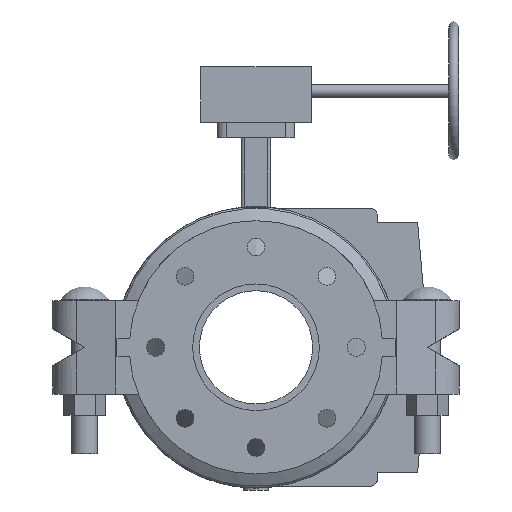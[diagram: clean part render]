
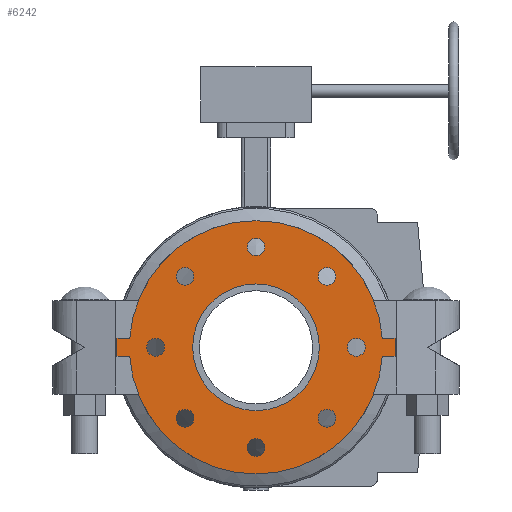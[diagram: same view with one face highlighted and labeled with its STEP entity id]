
A CAD part, front view. The second image highlights one B-rep face of the part: STEP entity #6242.
In plain terms, the highlighted planar face has unit normal (0, -1, 0) as drawn and (0, 0, -1) by its records, which use the part's own axes.
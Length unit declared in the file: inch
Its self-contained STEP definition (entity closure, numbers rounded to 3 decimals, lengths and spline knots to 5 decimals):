
#176=FACE_BOUND('',#807,.T.);
#177=FACE_BOUND('',#808,.T.);
#178=FACE_BOUND('',#809,.T.);
#179=FACE_BOUND('',#810,.T.);
#180=FACE_BOUND('',#811,.T.);
#181=FACE_BOUND('',#812,.T.);
#182=FACE_BOUND('',#813,.T.);
#183=FACE_BOUND('',#814,.T.);
#184=FACE_BOUND('',#815,.T.);
#251=PLANE('',#6780);
#462=FACE_OUTER_BOUND('',#806,.T.);
#806=EDGE_LOOP('',(#4066,#4067,#4068,#4069,#4070,#4071,#4072,#4073));
#807=EDGE_LOOP('',(#4074));
#808=EDGE_LOOP('',(#4075));
#809=EDGE_LOOP('',(#4076));
#810=EDGE_LOOP('',(#4077));
#811=EDGE_LOOP('',(#4078));
#812=EDGE_LOOP('',(#4079));
#813=EDGE_LOOP('',(#4080));
#814=EDGE_LOOP('',(#4081));
#815=EDGE_LOOP('',(#4082));
#1204=LINE('',#9463,#1672);
#1207=LINE('',#9469,#1675);
#1210=LINE('',#9474,#1678);
#1212=LINE('',#9479,#1680);
#1216=LINE('',#9486,#1684);
#1218=LINE('',#9489,#1686);
#1672=VECTOR('',#7550,0.3937);
#1675=VECTOR('',#7555,0.3937);
#1678=VECTOR('',#7560,0.3937);
#1680=VECTOR('',#7564,0.3937);
#1684=VECTOR('',#7570,0.3937);
#1686=VECTOR('',#7574,0.3937);
#2128=CIRCLE('',#6742,0.315);
#2130=CIRCLE('',#6745,0.315);
#2132=CIRCLE('',#6748,0.315);
#2134=CIRCLE('',#6751,0.315);
#2136=CIRCLE('',#6754,0.315);
#2138=CIRCLE('',#6757,0.315);
#2140=CIRCLE('',#6760,0.315);
#2142=CIRCLE('',#6763,0.315);
#2143=CIRCLE('',#6765,2.25);
#2145=CIRCLE('',#6768,4.5);
#2148=CIRCLE('',#6772,4.5);
#2482=VERTEX_POINT('',#9392);
#2484=VERTEX_POINT('',#9398);
#2486=VERTEX_POINT('',#9404);
#2488=VERTEX_POINT('',#9410);
#2490=VERTEX_POINT('',#9416);
#2492=VERTEX_POINT('',#9422);
#2494=VERTEX_POINT('',#9428);
#2496=VERTEX_POINT('',#9434);
#2497=VERTEX_POINT('',#9438);
#2499=VERTEX_POINT('',#9444);
#2501=VERTEX_POINT('',#9447);
#2503=VERTEX_POINT('',#9453);
#2506=VERTEX_POINT('',#9458);
#2507=VERTEX_POINT('',#9462);
#2509=VERTEX_POINT('',#9468);
#2511=VERTEX_POINT('',#9477);
#2512=VERTEX_POINT('',#9478);
#3089=EDGE_CURVE('',#2482,#2482,#2128,.T.);
#3092=EDGE_CURVE('',#2484,#2484,#2130,.T.);
#3095=EDGE_CURVE('',#2486,#2486,#2132,.T.);
#3098=EDGE_CURVE('',#2488,#2488,#2134,.T.);
#3101=EDGE_CURVE('',#2490,#2490,#2136,.T.);
#3104=EDGE_CURVE('',#2492,#2492,#2138,.T.);
#3107=EDGE_CURVE('',#2494,#2494,#2140,.T.);
#3110=EDGE_CURVE('',#2496,#2496,#2142,.T.);
#3111=EDGE_CURVE('',#2497,#2497,#2143,.T.);
#3115=EDGE_CURVE('',#2499,#2501,#2145,.T.);
#3121=EDGE_CURVE('',#2506,#2503,#2148,.T.);
#3122=EDGE_CURVE('',#2501,#2507,#1204,.T.);
#3125=EDGE_CURVE('',#2509,#2506,#1207,.T.);
#3128=EDGE_CURVE('',#2507,#2509,#1210,.T.);
#3130=EDGE_CURVE('',#2511,#2512,#1212,.T.);
#3134=EDGE_CURVE('',#2503,#2511,#1216,.T.);
#3136=EDGE_CURVE('',#2512,#2499,#1218,.T.);
#4066=ORIENTED_EDGE('',*,*,#3136,.F.);
#4067=ORIENTED_EDGE('',*,*,#3130,.F.);
#4068=ORIENTED_EDGE('',*,*,#3134,.F.);
#4069=ORIENTED_EDGE('',*,*,#3121,.F.);
#4070=ORIENTED_EDGE('',*,*,#3125,.F.);
#4071=ORIENTED_EDGE('',*,*,#3128,.F.);
#4072=ORIENTED_EDGE('',*,*,#3122,.F.);
#4073=ORIENTED_EDGE('',*,*,#3115,.F.);
#4074=ORIENTED_EDGE('',*,*,#3089,.T.);
#4075=ORIENTED_EDGE('',*,*,#3092,.T.);
#4076=ORIENTED_EDGE('',*,*,#3095,.T.);
#4077=ORIENTED_EDGE('',*,*,#3098,.T.);
#4078=ORIENTED_EDGE('',*,*,#3101,.T.);
#4079=ORIENTED_EDGE('',*,*,#3104,.T.);
#4080=ORIENTED_EDGE('',*,*,#3107,.T.);
#4081=ORIENTED_EDGE('',*,*,#3110,.T.);
#4082=ORIENTED_EDGE('',*,*,#3111,.T.);
#6242=ADVANCED_FACE('',(#462,#176,#177,#178,#179,#180,#181,#182,#183,#184),
#251,.F.);
#6742=AXIS2_PLACEMENT_3D('',#9394,#7474,#7475);
#6745=AXIS2_PLACEMENT_3D('',#9400,#7481,#7482);
#6748=AXIS2_PLACEMENT_3D('',#9406,#7488,#7489);
#6751=AXIS2_PLACEMENT_3D('',#9412,#7495,#7496);
#6754=AXIS2_PLACEMENT_3D('',#9418,#7502,#7503);
#6757=AXIS2_PLACEMENT_3D('',#9424,#7509,#7510);
#6760=AXIS2_PLACEMENT_3D('',#9430,#7516,#7517);
#6763=AXIS2_PLACEMENT_3D('',#9436,#7523,#7524);
#6765=AXIS2_PLACEMENT_3D('',#9439,#7527,#7528);
#6768=AXIS2_PLACEMENT_3D('',#9448,#7535,#7536);
#6772=AXIS2_PLACEMENT_3D('',#9460,#7546,#7547);
#6780=AXIS2_PLACEMENT_3D('',#9492,#7578,#7579);
#7474=DIRECTION('center_axis',(0.,0.,1.));
#7475=DIRECTION('ref_axis',(-0.707,-0.707,0.));
#7481=DIRECTION('center_axis',(0.,0.,1.));
#7482=DIRECTION('ref_axis',(-1.,0.,0.));
#7488=DIRECTION('center_axis',(0.,0.,1.));
#7489=DIRECTION('ref_axis',(-0.707,0.707,0.));
#7495=DIRECTION('center_axis',(0.,0.,1.));
#7496=DIRECTION('ref_axis',(0.,1.,0.));
#7502=DIRECTION('center_axis',(0.,0.,1.));
#7503=DIRECTION('ref_axis',(0.707,0.707,0.));
#7509=DIRECTION('center_axis',(0.,0.,1.));
#7510=DIRECTION('ref_axis',(1.,0.,0.));
#7516=DIRECTION('center_axis',(0.,0.,1.));
#7517=DIRECTION('ref_axis',(0.707,-0.707,0.));
#7523=DIRECTION('center_axis',(0.,0.,1.));
#7524=DIRECTION('ref_axis',(0.,-1.,0.));
#7527=DIRECTION('center_axis',(0.,0.,1.));
#7528=DIRECTION('ref_axis',(0.,-1.,0.));
#7535=DIRECTION('center_axis',(0.,0.,1.));
#7536=DIRECTION('ref_axis',(0.,1.,0.));
#7546=DIRECTION('center_axis',(0.,0.,1.));
#7547=DIRECTION('ref_axis',(0.,1.,0.));
#7550=DIRECTION('',(0.,-1.,0.));
#7555=DIRECTION('',(0.,1.,0.));
#7560=DIRECTION('',(1.,0.,0.));
#7564=DIRECTION('',(-1.,0.,0.));
#7570=DIRECTION('',(0.,1.,0.));
#7574=DIRECTION('',(0.,-1.,0.));
#7578=DIRECTION('center_axis',(0.,0.,1.));
#7579=DIRECTION('ref_axis',(0.,1.,0.));
#9392=CARTESIAN_POINT('',(-2.2981,2.74357,0.));
#9394=CARTESIAN_POINT('Origin',(-2.52084,2.52084,0.));
#9398=CARTESIAN_POINT('',(0.315,3.565,0.));
#9400=CARTESIAN_POINT('Origin',(0.,3.565,0.));
#9404=CARTESIAN_POINT('',(2.74357,2.2981,0.));
#9406=CARTESIAN_POINT('Origin',(2.52084,2.52084,0.));
#9410=CARTESIAN_POINT('',(3.565,-0.315,0.));
#9412=CARTESIAN_POINT('Origin',(3.565,0.,0.));
#9416=CARTESIAN_POINT('',(2.2981,-2.74357,0.));
#9418=CARTESIAN_POINT('Origin',(2.52084,-2.52084,0.));
#9422=CARTESIAN_POINT('',(-0.315,-3.565,0.));
#9424=CARTESIAN_POINT('Origin',(0.,-3.565,0.));
#9428=CARTESIAN_POINT('',(-2.74357,-2.2981,0.));
#9430=CARTESIAN_POINT('Origin',(-2.52084,-2.52084,0.));
#9434=CARTESIAN_POINT('',(-3.565,0.315,0.));
#9436=CARTESIAN_POINT('Origin',(-3.565,0.,0.));
#9438=CARTESIAN_POINT('',(0.,2.25,0.));
#9439=CARTESIAN_POINT('Origin',(0.,0.,0.));
#9444=CARTESIAN_POINT('',(-0.32,4.48861,0.));
#9447=CARTESIAN_POINT('',(-0.32,-4.48861,0.));
#9448=CARTESIAN_POINT('Origin',(0.,0.,0.));
#9453=CARTESIAN_POINT('',(0.32,4.48861,0.));
#9458=CARTESIAN_POINT('',(0.32,-4.48861,0.));
#9460=CARTESIAN_POINT('Origin',(0.,0.,0.));
#9462=CARTESIAN_POINT('',(-0.32,-4.94,0.));
#9463=CARTESIAN_POINT('',(-0.32,-4.48861,0.));
#9468=CARTESIAN_POINT('',(0.32,-4.94,0.));
#9469=CARTESIAN_POINT('',(0.32,-4.94,0.));
#9474=CARTESIAN_POINT('',(-0.32,-4.94,0.));
#9477=CARTESIAN_POINT('',(0.32,4.94,0.));
#9478=CARTESIAN_POINT('',(-0.32,4.94,0.));
#9479=CARTESIAN_POINT('',(0.32,4.94,0.));
#9486=CARTESIAN_POINT('',(0.32,4.48861,0.));
#9489=CARTESIAN_POINT('',(-0.32,4.94,0.));
#9492=CARTESIAN_POINT('Origin',(0.,4.73391,0.));
